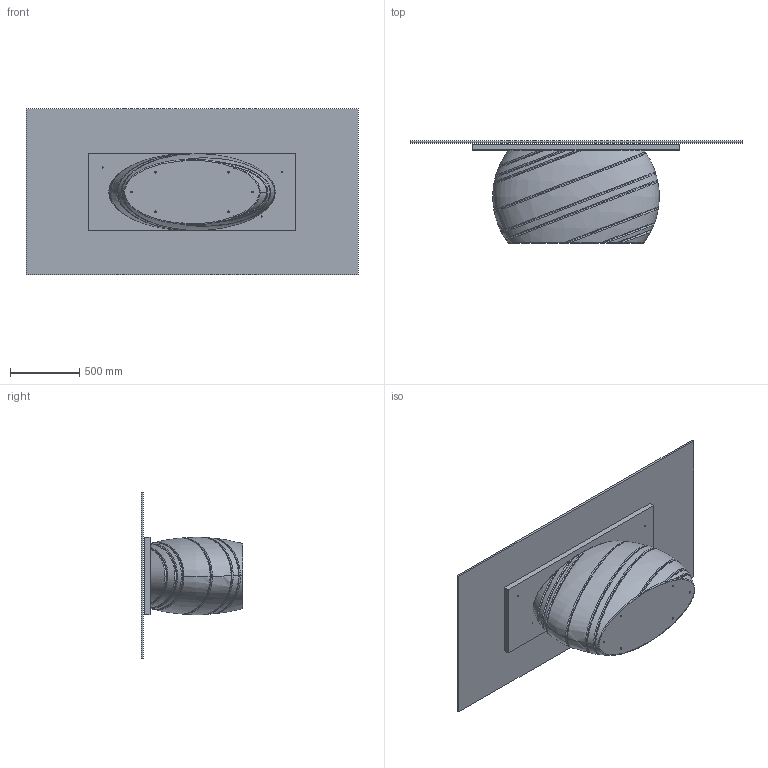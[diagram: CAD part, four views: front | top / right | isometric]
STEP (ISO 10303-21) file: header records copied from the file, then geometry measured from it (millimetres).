
FILE_DESCRIPTION (( 'STEP AP203' ), '1' );
FILE_NAME ('cri 240x120.STEP', '2025-05-26T14:02:21', ( '' ), ( '' ), 'SwSTEP 2.0', 'SolidWorks 2022', '' );
FILE_SCHEMA (( 'CONFIG_CONTROL_DESIGN' ));
Products named in the file (3): PIANI_modello 3D x web_Cristallo 240x120; cri 240x120; GIB000xxx-00-BASE GIOVE X 300
Assembly tree (2 placements, depth 2):
  cri 240x120
    PIANI_modello 3D x web_Cristallo 240x120
    GIB000xxx-00-BASE GIOVE X 300
Bounding box: 2400 x 737 x 1200 mm (x, y, z)
Volume: 393287103.9 mm3; surface area: 10480121.3 mm2
Topology: 3 solids, 3 shells, 156 faces, 381 edges, 246 vertices
Faces by surface type: bspline 53, cylinder 44, plane 35, cone 24
Entity records: 37242 total; most frequent: CARTESIAN_POINT 33611, ORIENTED_EDGE 762, DIRECTION 568, EDGE_CURVE 381, VERTEX_POINT 246, AXIS2_PLACEMENT_3D 232, EDGE_LOOP 191, ADVANCED_FACE 156
